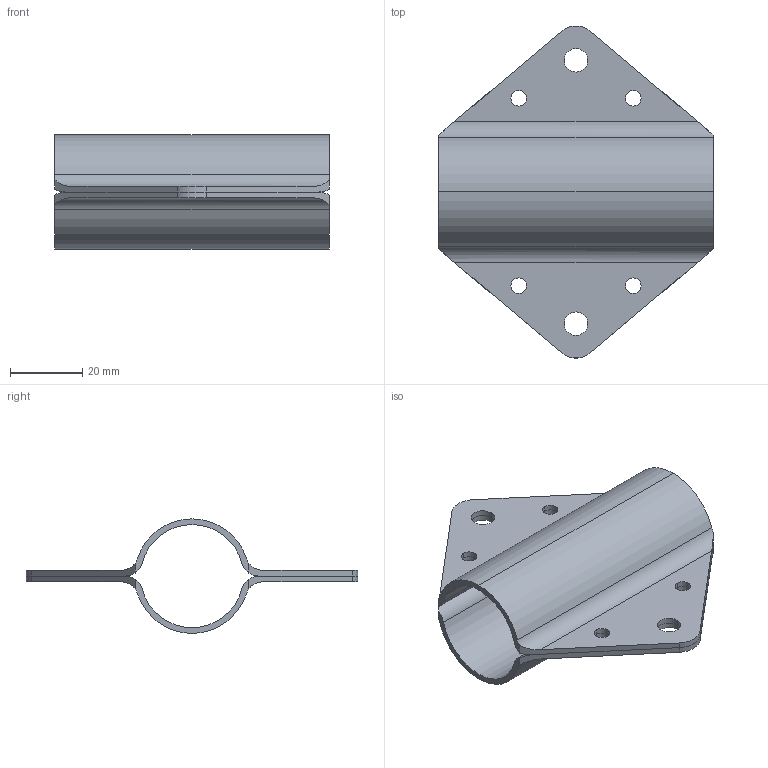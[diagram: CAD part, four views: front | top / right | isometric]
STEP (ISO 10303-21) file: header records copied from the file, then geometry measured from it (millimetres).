
FILE_DESCRIPTION (( 'STEP AP203' ), '1' );
FILE_NAME ('FDPCK-MC1-EMB-1-1.step', '2019-09-11T18:40:47', ( 'ydmin' ), ( '' ), 'SwSTEP 2.0', 'SolidWorks 2017', '' );
FILE_SCHEMA (( 'CONFIG_CONTROL_DESIGN' ));
Length unit declared in the file: inch
Products named in the file (1): FDPCK-MC1-EMB-1-1
Bounding box: 76.2 x 92.04 x 31.69 mm (x, y, z)
Volume: 18617 mm3; surface area: 24078.4 mm2
Topology: 2 solids, 2 shells, 62 faces, 174 edges, 116 vertices
Faces by surface type: cylinder 42, plane 20
Entity records: 2167 total; most frequent: CARTESIAN_POINT 401, DIRECTION 368, ORIENTED_EDGE 348, EDGE_CURVE 174, AXIS2_PLACEMENT_3D 147, VERTEX_POINT 116, EDGE_LOOP 86, CIRCLE 84
